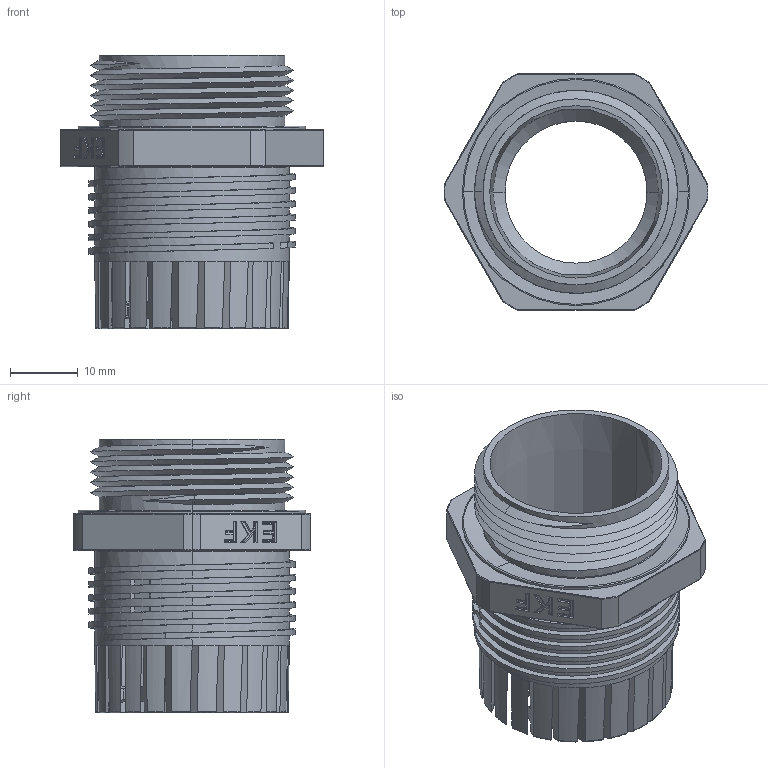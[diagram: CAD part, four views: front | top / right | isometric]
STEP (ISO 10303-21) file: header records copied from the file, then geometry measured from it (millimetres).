
FILE_DESCRIPTION (( 'STEP AP214' ), '1' );
FILE_NAME ('plc-pg-25-00.00.001 昢膼瘔 (PG25) #base (PG25)#.STEP', '2024-07-19T11:10:44', ( '' ), ( '' ), 'SwSTEP 2.0', 'SolidWorks 2021', '' );
FILE_SCHEMA (( 'AUTOMOTIVE_DESIGN' ));
Length unit declared in the file: millimetre
Products named in the file (1): plc-pg-25-00.00.001 昢膼瘔 (PG25) #base (PG25)#
Bounding box: 39 x 35 x 40.5 mm (x, y, z)
Volume: 8500.5 mm3; surface area: 10615.5 mm2
Topology: 1 solids, 1 shells, 485 faces, 1324 edges, 851 vertices
Faces by surface type: cylinder 129, plane 125, cone 108, torus 67, bspline 56
Entity records: 23603 total; most frequent: CARTESIAN_POINT 11922, ORIENTED_EDGE 2648, DIRECTION 1861, EDGE_CURVE 1324, VERTEX_POINT 851, AXIS2_PLACEMENT_3D 771, EDGE_LOOP 499, B_SPLINE_CURVE_WITH_KNOTS 494
